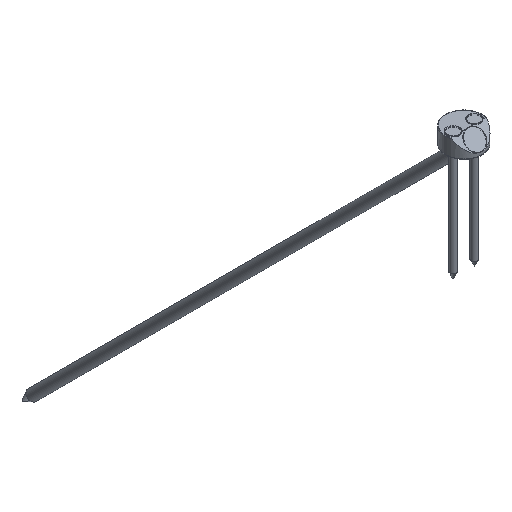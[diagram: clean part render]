
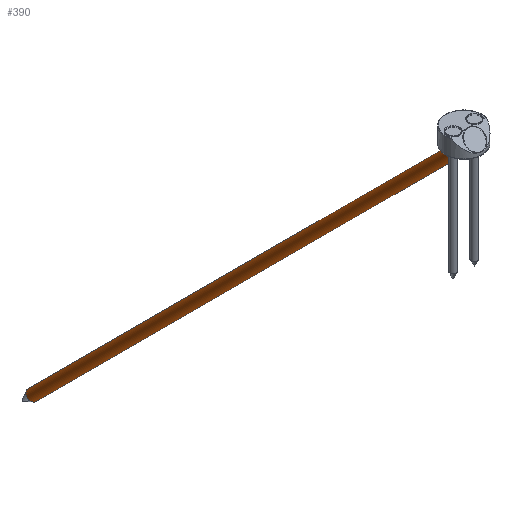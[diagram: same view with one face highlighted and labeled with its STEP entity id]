
A CAD part, isometric view. The second image highlights one B-rep face of the part: STEP entity #390.
In plain terms, the highlighted cylindrical face has radius 5 mm (diameter 10 mm), a full revolution.
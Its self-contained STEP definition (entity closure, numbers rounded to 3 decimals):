
#59=CYLINDRICAL_SURFACE('',#480,5.);
#91=CIRCLE('',#479,5.);
#92=CIRCLE('',#481,5.);
#165=ORIENTED_EDGE('',*,*,#206,.T.);
#166=ORIENTED_EDGE('',*,*,#205,.F.);
#205=EDGE_CURVE('',#238,#238,#91,.T.);
#206=EDGE_CURVE('',#239,#239,#92,.T.);
#238=VERTEX_POINT('',#733);
#239=VERTEX_POINT('',#736);
#297=EDGE_LOOP('',(#165));
#298=EDGE_LOOP('',(#166));
#350=FACE_BOUND('',#297,.T.);
#351=FACE_BOUND('',#298,.T.);
#390=ADVANCED_FACE('',(#350,#351),#59,.T.);
#479=AXIS2_PLACEMENT_3D('',#732,#602,#603);
#480=AXIS2_PLACEMENT_3D('',#734,#604,#605);
#481=AXIS2_PLACEMENT_3D('',#735,#606,#607);
#602=DIRECTION('',(0.,1.,0.));
#603=DIRECTION('',(0.,0.,1.));
#604=DIRECTION('',(0.,1.,0.));
#605=DIRECTION('',(0.,0.,1.));
#606=DIRECTION('',(0.,1.,0.));
#607=DIRECTION('',(0.,0.,1.));
#732=CARTESIAN_POINT('',(0.,42.,0.));
#733=CARTESIAN_POINT('',(0.,42.,5.));
#734=CARTESIAN_POINT('',(0.,54.,0.));
#735=CARTESIAN_POINT('',(0.,-533.,0.));
#736=CARTESIAN_POINT('',(0.,-533.,5.));
